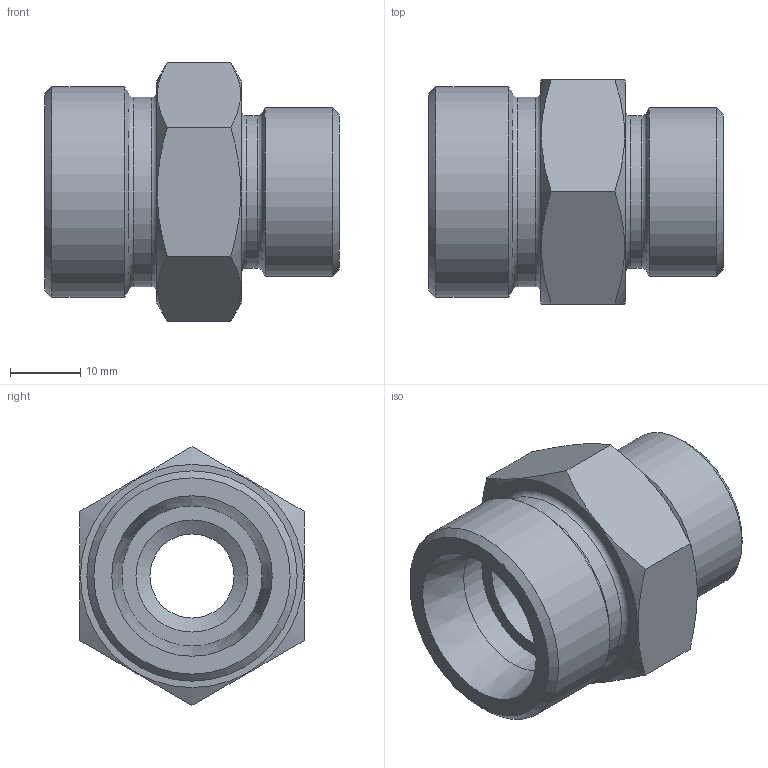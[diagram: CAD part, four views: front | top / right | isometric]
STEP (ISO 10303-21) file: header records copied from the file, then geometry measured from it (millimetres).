
FILE_DESCRIPTION( ( 'Unknown' ), '1' );
FILE_NAME( 'C:/Users/p.nanko/Desktop/3D SR/XGR2016S.stp', 'Unknown', ( 'Peter Nanko' ), ( 'Armaturen Arndt' ), 'PSStep 14.0', 'Solid Edge ST4', ' ' );
FILE_SCHEMA( ( 'AUTOMOTIVE_DESIGN { 1 0 10303 214 1 1 1 1 }' ) );
Length unit declared in the file: millimetre
Products named in the file (1): 1
Bounding box: 42 x 32 x 36.95 mm (x, y, z)
Volume: 18343.8 mm3; surface area: 7414.6 mm2
Topology: 1 solids, 1 shells, 33 faces, 70 edges, 43 vertices
Faces by surface type: plane 12, cone 9, cylinder 8, torus 4
Full cylindrical faces by diameter (mm): 12 x1, 16 x2, 20 x1, 21.7 x1, 24 x1, 27 x1, 30 x1
Entity records: 1132 total; most frequent: CARTESIAN_POINT 256, DIRECTION 126, ORIENTED_EDGE 88, AXIS2_PLACEMENT_3D 60, EDGE_LOOP 60, FACE_OUTER_BOUND 45, EDGE_CURVE 44, VERTEX_POINT 38
